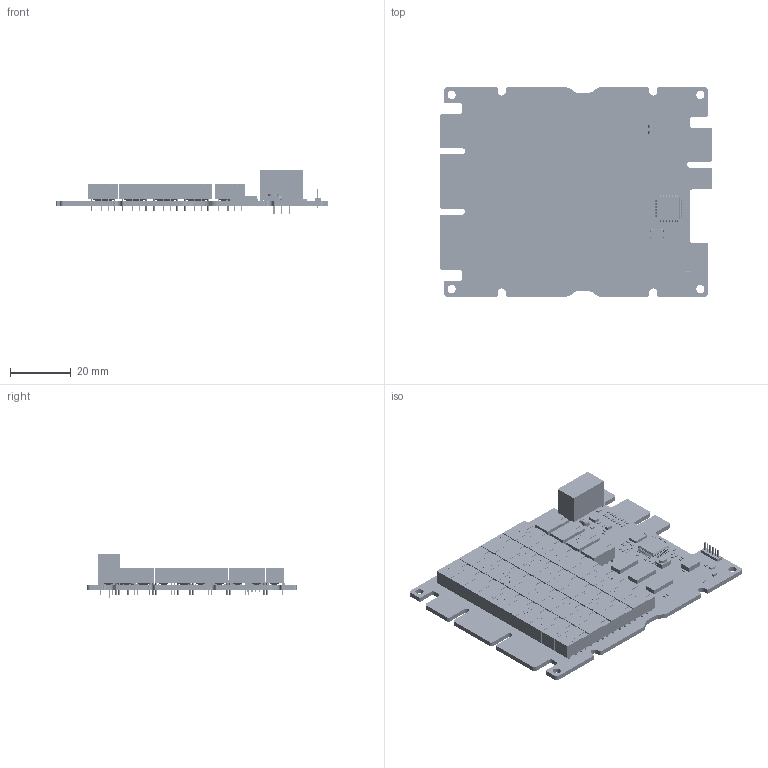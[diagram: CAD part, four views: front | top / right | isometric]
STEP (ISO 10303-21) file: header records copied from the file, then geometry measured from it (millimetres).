
FILE_DESCRIPTION(('Open CASCADE Model'),'2;1');
FILE_NAME('Open CASCADE Shape Model','2026-08-19T14:53:19',('Author'),( 'Open CASCADE'),'Open CASCADE STEP processor 7.5','Open CASCADE 7.5' ,'Unknown');
FILE_SCHEMA(('AUTOMOTIVE_DESIGN { 1 0 10303 214 1 1 1 1 }'));
Length unit declared in the file: millimetre
Products named in the file (257): Open CASCADE STEP translator 7.5 3848; Open CASCADE STEP translator 7.5 3849; Open CASCADE STEP translator 7.5 3850; Open CASCADE STEP translator 7.5 3851; Open CASCADE STEP translator 7.5 3852; Open CASCADE STEP translator 7.5 3853; Open CASCADE STEP translator 7.5 3854; Open CASCADE STEP translator 7.5 3855; Open CASCADE STEP translator 7.5 3856; Open CASCADE STEP translator 7.5 3857; Open CASCADE STEP translator 7.5 3858; Open CASCADE STEP translator 7.5 3859; Open CASCADE STEP translator 7.5 3860; Open CASCADE STEP translator 7.5 3861; Open CASCADE STEP translator 7.5 3862; Open CASCADE STEP translator 7.5 3863; Open CASCADE STEP translator 7.5 3864; Open CASCADE STEP translator 7.5 3865; Open CASCADE STEP translator 7.5 3866; Open CASCADE STEP translator 7.5 3867; Open CASCADE STEP translator 7.5 3868; Open CASCADE STEP translator 7.5 3869; Open CASCADE STEP translator 7.5 3870; Open CASCADE STEP translator 7.5 3871; Open CASCADE STEP translator 7.5 3872; Open CASCADE STEP translator 7.5 3873; Open CASCADE STEP translator 7.5 3874; Open CASCADE STEP translator 7.5 3875; Open CASCADE STEP translator 7.5 3876; Open CASCADE STEP translator 7.5 3877; Open CASCADE STEP translator 7.5 3878; Open CASCADE STEP translator 7.5 3879; Open CASCADE STEP translator 7.5 3880; Open CASCADE STEP translator 7.5 3881; Open CASCADE STEP translator 7.5 3882; Open CASCADE STEP translator 7.5 3883; Open CASCADE STEP translator 7.5 3884; Open CASCADE STEP translator 7.5 3885; Open CASCADE STEP translator 7.5 3886; Open CASCADE STEP translator 7.5 3887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
Bounding box: 90 x 69 x 14.2 mm (x, y, z)
Volume: 23799.9 mm3; surface area: 29175.6 mm2
Topology: 324 solids, 324 shells, 12300 faces, 31085 edges, 20678 vertices
Faces by surface type: plane 8002, bspline 2820, cylinder 1442, sphere 24, torus 8, cone 4
Full cylindrical faces by diameter (mm): 0.08 x1, 0.289 x1, 0.3 x6, 0.5 x3, 0.6 x6, 0.75 x352, 0.94 x3, 1.4 x1, 1.6 x2, 2.7 x4
Entity records: 614640 total; most frequent: CARTESIAN_POINT 260563, ORIENTED_EDGE 62170, DIRECTION 47292, EDGE_CURVE 31085, LINE 22546, VECTOR 22546, VERTEX_POINT 20678, FACE_BOUND 14275
